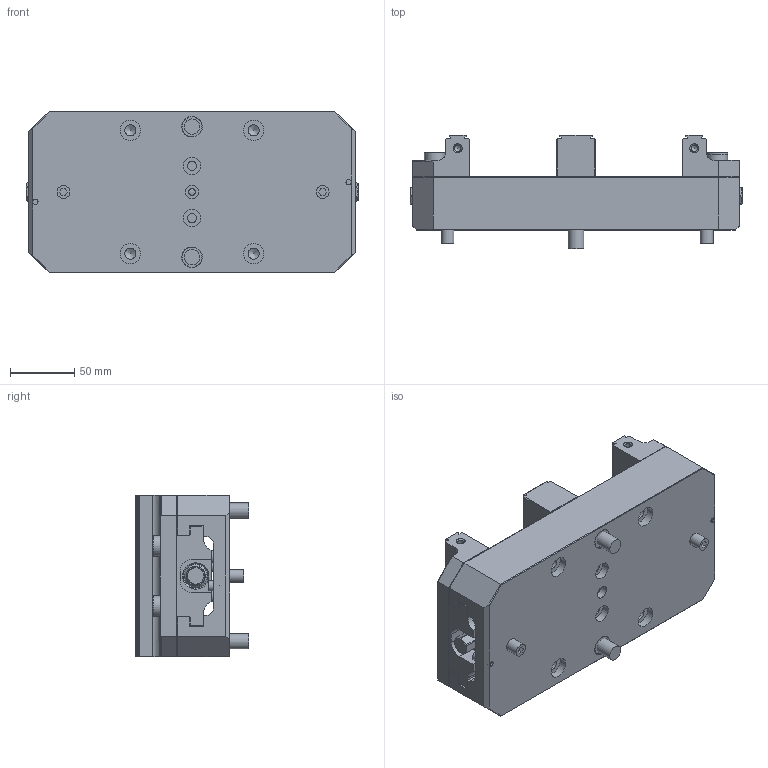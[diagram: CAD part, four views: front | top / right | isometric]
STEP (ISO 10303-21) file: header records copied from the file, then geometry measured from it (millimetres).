
FILE_DESCRIPTION (( 'STEP AP214' ), '1' );
FILE_NAME ('DV510-J4_WEBSITE.STEP', '2025-08-11T11:35:53', ( '' ), ( '' ), 'SwSTEP 2.0', 'SolidWorks 2024', '' );
FILE_SCHEMA (( 'AUTOMOTIVE_DESIGN' ));
Length unit declared in the file: inch
Products named in the file (24): HW.76400_WEBSITE_91290A635; V562M-2_WEBSITE_FINAL RIGHT -2RDV; HW.M8X12.DP_WEBSITE_DEFAULT; HW.M8X12.EPSS_WEBSITE_92775A312; LP8_WEBSITE_LP8; DV510-J4_WEBSITE; 450-12_WEBSITE; HW.0875X0750.DB_WEBSITE_8491A501; V562-5CDV_WEBSITE_MILL OP4 (GRIND PROCESS); V562M-2_WEBSITE_FINAL LEFT; HW.BASE.PLUG.M8-1.25_WEBSITE_90278A411; HW.JAW.PLUG_WEBSITE; 76384_WEBSITE_91290A233; HW.09019_WEBSITE_92981A304; V5104-1DV_WEBSITE_V510DV-1; HW.LC049E03S_WEBSITE_DEFAULT; DV510^DV510-J4_WEBSITE_-JX; V5104M-4_WEBSITE; V562M-5_WEBSITE_MILL OP 5 (HARD); HW.76300_WEBSITE_76300; HW.0375.FP_WEBSITE; LP10_WEBSITE_LP10; V562M-5F_WEBSITE_MILL OP 6 (HARD); DV56-3R_WEBSITE
Assembly tree (41 placements, depth 3):
  DV510-J4_WEBSITE
    DV510^DV510-J4_WEBSITE_-JX
      V5104-1DV_WEBSITE_V510DV-1
      V562M-2_WEBSITE_FINAL RIGHT -2RDV
      V562M-2_WEBSITE_FINAL LEFT
      V5104M-4_WEBSITE
      HW.BASE.PLUG.M8-1.25_WEBSITE_90278A411  x2
      HW.0875X0750.DB_WEBSITE_8491A501  x2
      HW.M8X12.DP_WEBSITE_DEFAULT  x4
      HW.LC049E03S_WEBSITE_DEFAULT  x2
      HW.M8X12.EPSS_WEBSITE_92775A312  x2
      HW.0375.FP_WEBSITE  x2
      LP8_WEBSITE_LP8  x2
      LP10_WEBSITE_LP10  x2
      76384_WEBSITE_91290A233  x2
      HW.76400_WEBSITE_91290A635  x2
      450-12_WEBSITE  x2
    DV56-3R_WEBSITE
      V562M-5_WEBSITE_MILL OP 5 (HARD)
      V562M-5F_WEBSITE_MILL OP 6 (HARD)
      V562-5CDV_WEBSITE_MILL OP4 (GRIND PROCESS)
      HW.76300_WEBSITE_76300  x4
      HW.JAW.PLUG_WEBSITE  x2
      HW.09019_WEBSITE_92981A304  x2
Bounding box: 258.32 x 88.21 x 125.73 mm (x, y, z)
Volume: 1314972.7 mm3; surface area: 273151.2 mm2
Topology: 39 solids, 39 shells, 841 faces, 1877 edges, 1178 vertices
Faces by surface type: plane 471, cylinder 196, cone 148, bspline 11, sphere 8, torus 7
Full cylindrical faces by diameter (mm): 3.454 x1, 4.2 x2, 4.743 x2, 5 x9, 5.5 x2, 5.969 x2, 6 x2, 6.8 x6, 7.137 x2, 7.493 x4, 7.992 x2, 8 x10, 8.016 x4, 8.019 x4, 8.128 x2, 8.5 x8, 8.912 x2, 9.144 x2, 9.195 x2, 9.474 x2, 9.576 x4, 9.957 x4, 10 x8, 10.013 x5, 10.2 x2, 10.719 x4, 12 x4, 13.487 x2, 13.894 x4, 14 x2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
Entity records: 22946 total; most frequent: CARTESIAN_POINT 5637, DIRECTION 2889, ORIENTED_EDGE 2490, EDGE_CURVE 1245, AXIS2_PLACEMENT_3D 1092, EDGE_LOOP 921, VERTEX_POINT 884, FACE_OUTER_BOUND 759
